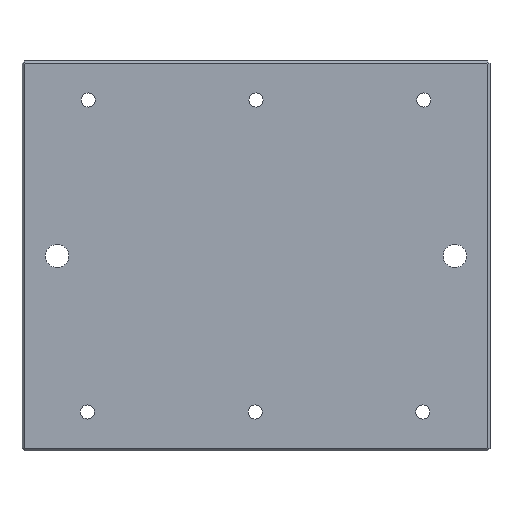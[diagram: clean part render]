
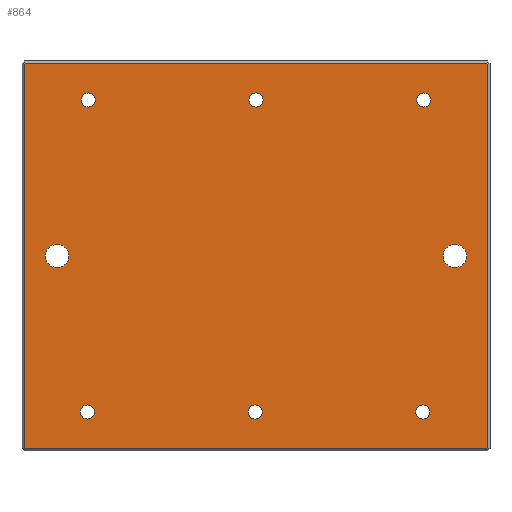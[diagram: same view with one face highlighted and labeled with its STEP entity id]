
A CAD part, front view. The second image highlights one B-rep face of the part: STEP entity #864.
In plain terms, the highlighted planar face has unit normal (0, -1, 0).
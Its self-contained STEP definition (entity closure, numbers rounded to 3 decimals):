
#1=CARTESIAN_POINT('',(-216.12,-25.,-200.));
#2=DIRECTION('',(0.,1.,0.));
#3=DIRECTION('',(1.,0.,0.));
#4=AXIS2_PLACEMENT_3D('',#1,#2,#3);
#6=CARTESIAN_POINT('',(-216.12,-25.,-200.));
#7=DIRECTION('',(0.,1.,0.));
#8=DIRECTION('',(-1.,0.,0.));
#9=AXIS2_PLACEMENT_3D('',#6,#7,#8);
#11=CARTESIAN_POINT('',(-1.12,-25.,-200.));
#12=DIRECTION('',(0.,1.,0.));
#13=DIRECTION('',(1.,0.,0.));
#14=AXIS2_PLACEMENT_3D('',#11,#12,#13);
#16=CARTESIAN_POINT('',(-1.12,-25.,-200.));
#17=DIRECTION('',(0.,1.,0.));
#18=DIRECTION('',(-1.,0.,0.));
#19=AXIS2_PLACEMENT_3D('',#16,#17,#18);
#21=CARTESIAN_POINT('',(213.88,-25.,-200.));
#22=DIRECTION('',(0.,1.,0.));
#23=DIRECTION('',(1.,0.,0.));
#24=AXIS2_PLACEMENT_3D('',#21,#22,#23);
#26=CARTESIAN_POINT('',(213.88,-25.,-200.));
#27=DIRECTION('',(0.,1.,0.));
#28=DIRECTION('',(-1.,0.,0.));
#29=AXIS2_PLACEMENT_3D('',#26,#27,#28);
#31=CARTESIAN_POINT('',(-215.,-25.,200.));
#32=DIRECTION('',(0.,-1.,0.));
#33=DIRECTION('',(1.,0.,0.));
#34=AXIS2_PLACEMENT_3D('',#31,#32,#33);
#36=CARTESIAN_POINT('',(-215.,-25.,200.));
#37=DIRECTION('',(0.,-1.,0.));
#38=DIRECTION('',(-1.,0.,0.));
#39=AXIS2_PLACEMENT_3D('',#36,#37,#38);
#41=CARTESIAN_POINT('',(0.,-25.,200.));
#42=DIRECTION('',(0.,-1.,0.));
#43=DIRECTION('',(1.,0.,0.));
#44=AXIS2_PLACEMENT_3D('',#41,#42,#43);
#46=CARTESIAN_POINT('',(0.,-25.,200.));
#47=DIRECTION('',(0.,-1.,0.));
#48=DIRECTION('',(-1.,0.,0.));
#49=AXIS2_PLACEMENT_3D('',#46,#47,#48);
#51=CARTESIAN_POINT('',(215.,-25.,200.));
#52=DIRECTION('',(0.,-1.,0.));
#53=DIRECTION('',(1.,0.,0.));
#54=AXIS2_PLACEMENT_3D('',#51,#52,#53);
#56=CARTESIAN_POINT('',(215.,-25.,200.));
#57=DIRECTION('',(0.,-1.,0.));
#58=DIRECTION('',(-1.,0.,0.));
#59=AXIS2_PLACEMENT_3D('',#56,#57,#58);
#61=CARTESIAN_POINT('',(-255.,-25.,0.));
#62=DIRECTION('',(0.,-1.,0.));
#63=DIRECTION('',(1.,0.,0.));
#64=AXIS2_PLACEMENT_3D('',#61,#62,#63);
#66=CARTESIAN_POINT('',(-255.,-25.,0.));
#67=DIRECTION('',(0.,-1.,0.));
#68=DIRECTION('',(-1.,0.,0.));
#69=AXIS2_PLACEMENT_3D('',#66,#67,#68);
#71=CARTESIAN_POINT('',(255.,-25.,0.));
#72=DIRECTION('',(0.,1.,0.));
#73=DIRECTION('',(-1.,0.,0.));
#74=AXIS2_PLACEMENT_3D('',#71,#72,#73);
#76=CARTESIAN_POINT('',(255.,-25.,0.));
#77=DIRECTION('',(0.,1.,0.));
#78=DIRECTION('',(1.,0.,0.));
#79=AXIS2_PLACEMENT_3D('',#76,#77,#78);
#81=DIRECTION('',(0.,0.,-1.));
#82=VECTOR('',#81,491.515);
#83=CARTESIAN_POINT('',(-297.,-25.,245.757));
#84=LINE('',#83,#82);
#85=DIRECTION('',(-0.707,0.,-0.707));
#86=VECTOR('',#85,1.757);
#87=CARTESIAN_POINT('',(-295.757,-25.,247.));
#88=LINE('',#87,#86);
#89=DIRECTION('',(-1.,0.,0.));
#90=VECTOR('',#89,591.515);
#91=CARTESIAN_POINT('',(295.757,-25.,247.));
#92=LINE('',#91,#90);
#93=DIRECTION('',(-0.707,0.,0.707));
#94=VECTOR('',#93,1.757);
#95=CARTESIAN_POINT('',(297.,-25.,245.757));
#96=LINE('',#95,#94);
#97=DIRECTION('',(0.,0.,1.));
#98=VECTOR('',#97,491.515);
#99=CARTESIAN_POINT('',(297.,-25.,-245.757));
#100=LINE('',#99,#98);
#101=DIRECTION('',(0.707,0.,0.707));
#102=VECTOR('',#101,1.757);
#103=CARTESIAN_POINT('',(295.757,-25.,-247.));
#104=LINE('',#103,#102);
#105=DIRECTION('',(1.,0.,0.));
#106=VECTOR('',#105,591.515);
#107=CARTESIAN_POINT('',(-295.757,-25.,-247.));
#108=LINE('',#107,#106);
#109=DIRECTION('',(0.707,0.,-0.707));
#110=VECTOR('',#109,1.757);
#111=CARTESIAN_POINT('',(-297.,-25.,-245.757));
#112=LINE('',#111,#110);
#625=CARTESIAN_POINT('',(-207.12,-25.,-200.));
#626=CARTESIAN_POINT('',(-225.12,-25.,-200.));
#627=VERTEX_POINT('',#625);
#628=VERTEX_POINT('',#626);
#641=CARTESIAN_POINT('',(7.88,-25.,-200.));
#642=CARTESIAN_POINT('',(-10.12,-25.,-200.));
#643=VERTEX_POINT('',#641);
#644=VERTEX_POINT('',#642);
#657=CARTESIAN_POINT('',(222.88,-25.,-200.));
#658=CARTESIAN_POINT('',(204.88,-25.,-200.));
#659=VERTEX_POINT('',#657);
#660=VERTEX_POINT('',#658);
#673=CARTESIAN_POINT('',(-206.,-25.,200.));
#674=VERTEX_POINT('',#673);
#677=CARTESIAN_POINT('',(-224.,-25.,200.));
#678=VERTEX_POINT('',#677);
#689=CARTESIAN_POINT('',(9.,-25.,200.));
#690=VERTEX_POINT('',#689);
#693=CARTESIAN_POINT('',(-9.,-25.,200.));
#694=VERTEX_POINT('',#693);
#705=CARTESIAN_POINT('',(224.,-25.,200.));
#706=VERTEX_POINT('',#705);
#709=CARTESIAN_POINT('',(206.,-25.,200.));
#710=VERTEX_POINT('',#709);
#713=CARTESIAN_POINT('',(-240.,-25.,0.));
#714=CARTESIAN_POINT('',(-270.,-25.,0.));
#715=VERTEX_POINT('',#713);
#716=VERTEX_POINT('',#714);
#722=CARTESIAN_POINT('',(240.,-25.,0.));
#724=VERTEX_POINT('',#722);
#726=CARTESIAN_POINT('',(270.,-25.,0.));
#728=VERTEX_POINT('',#726);
#765=CARTESIAN_POINT('',(-297.,-25.,245.757));
#766=CARTESIAN_POINT('',(-297.,-25.,-245.757));
#767=VERTEX_POINT('',#765);
#768=VERTEX_POINT('',#766);
#771=CARTESIAN_POINT('',(-295.757,-25.,247.));
#772=VERTEX_POINT('',#771);
#775=CARTESIAN_POINT('',(295.757,-25.,247.));
#776=VERTEX_POINT('',#775);
#777=CARTESIAN_POINT('',(297.,-25.,245.757));
#778=VERTEX_POINT('',#777);
#783=CARTESIAN_POINT('',(297.,-25.,-245.757));
#784=VERTEX_POINT('',#783);
#785=CARTESIAN_POINT('',(295.757,-25.,-247.));
#786=VERTEX_POINT('',#785);
#791=CARTESIAN_POINT('',(-295.757,-25.,-247.));
#792=VERTEX_POINT('',#791);
#793=CARTESIAN_POINT('',(0.,-25.,0.));
#794=DIRECTION('',(0.,1.,0.));
#795=DIRECTION('',(1.,0.,0.));
#796=AXIS2_PLACEMENT_3D('',#793,#794,#795);
#797=PLANE('',#796);
#799=ORIENTED_EDGE('',*,*,#798,.F.);
#801=ORIENTED_EDGE('',*,*,#800,.F.);
#803=ORIENTED_EDGE('',*,*,#802,.F.);
#805=ORIENTED_EDGE('',*,*,#804,.F.);
#807=ORIENTED_EDGE('',*,*,#806,.F.);
#809=ORIENTED_EDGE('',*,*,#808,.F.);
#811=ORIENTED_EDGE('',*,*,#810,.F.);
#813=ORIENTED_EDGE('',*,*,#812,.F.);
#814=EDGE_LOOP('',(#799,#801,#803,#805,#807,#809,#811,#813));
#815=FACE_OUTER_BOUND('',#814,.F.);
#817=ORIENTED_EDGE('',*,*,#816,.F.);
#819=ORIENTED_EDGE('',*,*,#818,.F.);
#820=EDGE_LOOP('',(#817,#819));
#821=FACE_BOUND('',#820,.F.);
#823=ORIENTED_EDGE('',*,*,#822,.F.);
#825=ORIENTED_EDGE('',*,*,#824,.F.);
#826=EDGE_LOOP('',(#823,#825));
#827=FACE_BOUND('',#826,.F.);
#829=ORIENTED_EDGE('',*,*,#828,.T.);
#831=ORIENTED_EDGE('',*,*,#830,.T.);
#832=EDGE_LOOP('',(#829,#831));
#833=FACE_BOUND('',#832,.F.);
#835=ORIENTED_EDGE('',*,*,#834,.T.);
#837=ORIENTED_EDGE('',*,*,#836,.T.);
#838=EDGE_LOOP('',(#835,#837));
#839=FACE_BOUND('',#838,.F.);
#841=ORIENTED_EDGE('',*,*,#840,.T.);
#843=ORIENTED_EDGE('',*,*,#842,.T.);
#844=EDGE_LOOP('',(#841,#843));
#845=FACE_BOUND('',#844,.F.);
#847=ORIENTED_EDGE('',*,*,#846,.T.);
#849=ORIENTED_EDGE('',*,*,#848,.T.);
#850=EDGE_LOOP('',(#847,#849));
#851=FACE_BOUND('',#850,.F.);
#853=ORIENTED_EDGE('',*,*,#852,.F.);
#855=ORIENTED_EDGE('',*,*,#854,.F.);
#856=EDGE_LOOP('',(#853,#855));
#857=FACE_BOUND('',#856,.F.);
#859=ORIENTED_EDGE('',*,*,#858,.F.);
#861=ORIENTED_EDGE('',*,*,#860,.F.);
#862=EDGE_LOOP('',(#859,#861));
#863=FACE_BOUND('',#862,.F.);
#864=ADVANCED_FACE('',(#815,#821,#827,#833,#839,#845,#851,#857,#863),#797,.F.);
#5=CIRCLE('',#4,9.);
#10=CIRCLE('',#9,9.);
#15=CIRCLE('',#14,9.);
#20=CIRCLE('',#19,9.);
#25=CIRCLE('',#24,9.);
#30=CIRCLE('',#29,9.);
#35=CIRCLE('',#34,9.);
#40=CIRCLE('',#39,9.);
#45=CIRCLE('',#44,9.);
#50=CIRCLE('',#49,9.);
#55=CIRCLE('',#54,9.);
#60=CIRCLE('',#59,9.);
#65=CIRCLE('',#64,15.);
#70=CIRCLE('',#69,15.);
#75=CIRCLE('',#74,15.);
#80=CIRCLE('',#79,15.);
#798=EDGE_CURVE('',#767,#768,#84,.T.);
#800=EDGE_CURVE('',#772,#767,#88,.T.);
#802=EDGE_CURVE('',#776,#772,#92,.T.);
#804=EDGE_CURVE('',#778,#776,#96,.T.);
#806=EDGE_CURVE('',#784,#778,#100,.T.);
#808=EDGE_CURVE('',#786,#784,#104,.T.);
#810=EDGE_CURVE('',#792,#786,#108,.T.);
#812=EDGE_CURVE('',#768,#792,#112,.T.);
#816=EDGE_CURVE('',#643,#644,#15,.T.);
#818=EDGE_CURVE('',#644,#643,#20,.T.);
#822=EDGE_CURVE('',#659,#660,#25,.T.);
#824=EDGE_CURVE('',#660,#659,#30,.T.);
#828=EDGE_CURVE('',#674,#678,#35,.T.);
#830=EDGE_CURVE('',#678,#674,#40,.T.);
#834=EDGE_CURVE('',#690,#694,#45,.T.);
#836=EDGE_CURVE('',#694,#690,#50,.T.);
#840=EDGE_CURVE('',#706,#710,#55,.T.);
#842=EDGE_CURVE('',#710,#706,#60,.T.);
#846=EDGE_CURVE('',#715,#716,#65,.T.);
#848=EDGE_CURVE('',#716,#715,#70,.T.);
#852=EDGE_CURVE('',#724,#728,#75,.T.);
#854=EDGE_CURVE('',#728,#724,#80,.T.);
#858=EDGE_CURVE('',#627,#628,#5,.T.);
#860=EDGE_CURVE('',#628,#627,#10,.T.);
